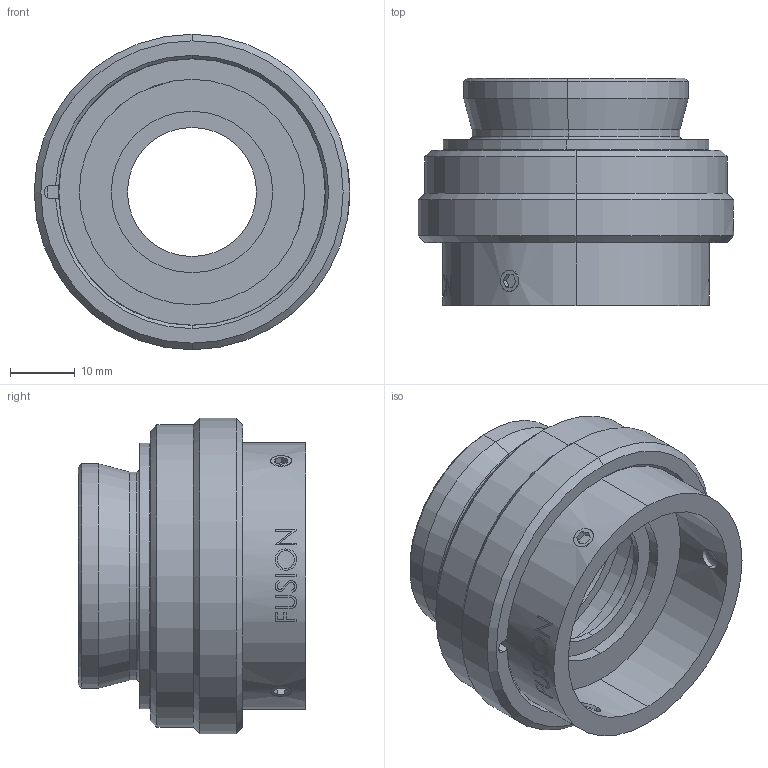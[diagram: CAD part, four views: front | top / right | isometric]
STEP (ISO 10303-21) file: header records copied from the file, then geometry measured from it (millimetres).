
FILE_DESCRIPTION (( 'STEP AP203' ), '1' );
FILE_NAME ('35-07-25-000 OUTLINE.STEP', '2016-04-06T15:16:31', ( 'a' ), ( '' ), 'SwSTEP 2.0', 'SolidWorks 2013', '' );
FILE_SCHEMA (( 'CONFIG_CONTROL_DESIGN' ));
Length unit declared in the file: inch
Products named in the file (1): 35-07-25-000 OUTLINE
Bounding box: 48.9 x 35.24 x 48.9 mm (x, y, z)
Surface area: 14576.3 mm2 (no closed solid volume)
Topology: 0 solids, 14 shells, 134 faces, 375 edges, 269 vertices
Faces by surface type: cylinder 54, plane 49, cone 23, sphere 6, torus 2
Entity records: 5601 total; most frequent: CARTESIAN_POINT 2000, DIRECTION 739, ORIENTED_EDGE 689, EDGE_CURVE 375, AXIS2_PLACEMENT_3D 281, VERTEX_POINT 269, VECTOR 177, LINE 177
